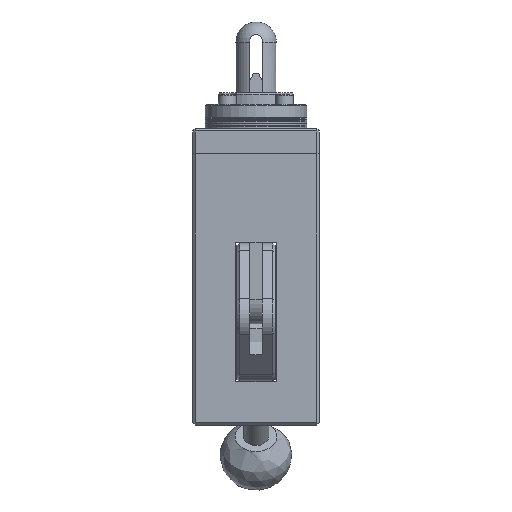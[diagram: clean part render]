
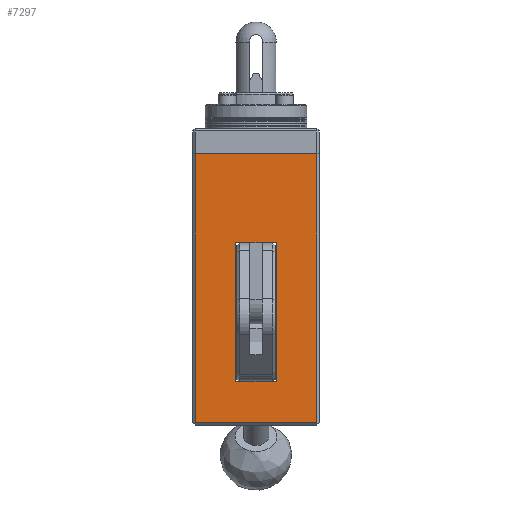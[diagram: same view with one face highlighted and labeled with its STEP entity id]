
A CAD part, left-side view. The second image highlights one B-rep face of the part: STEP entity #7297.
In plain terms, the highlighted planar face has unit normal (-1, 0, 0).
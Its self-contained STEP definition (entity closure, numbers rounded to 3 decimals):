
#244=FACE_BOUND('',#1182,.T.);
#452=PLANE('',#8041);
#730=FACE_OUTER_BOUND('',#1181,.T.);
#1181=EDGE_LOOP('',(#5523,#5524,#5525,#5526));
#1182=EDGE_LOOP('',(#5527,#5528,#5529,#5530));
#1593=LINE('',#11250,#2135);
#1600=LINE('',#11280,#2142);
#1626=LINE('',#11359,#2168);
#1629=LINE('',#11365,#2171);
#1671=LINE('',#11579,#2213);
#1679=LINE('',#11601,#2221);
#1691=LINE('',#11641,#2233);
#1692=LINE('',#11643,#2234);
#2135=VECTOR('',#8943,10.);
#2142=VECTOR('',#8972,10.);
#2168=VECTOR('',#9048,10.);
#2171=VECTOR('',#9053,10.);
#2213=VECTOR('',#9285,10.);
#2221=VECTOR('',#9307,10.);
#2233=VECTOR('',#9351,10.);
#2234=VECTOR('',#9354,10.);
#3162=VERTEX_POINT('',#11247);
#3163=VERTEX_POINT('',#11249);
#3174=VERTEX_POINT('',#11277);
#3175=VERTEX_POINT('',#11279);
#3203=VERTEX_POINT('',#11357);
#3205=VERTEX_POINT('',#11363);
#3282=VERTEX_POINT('',#11578);
#3289=VERTEX_POINT('',#11600);
#3955=EDGE_CURVE('',#3163,#3162,#1593,.T.);
#3969=EDGE_CURVE('',#3174,#3175,#1600,.T.);
#4006=EDGE_CURVE('',#3203,#3174,#1626,.T.);
#4009=EDGE_CURVE('',#3205,#3203,#1629,.T.);
#4112=EDGE_CURVE('',#3282,#3163,#1671,.T.);
#4122=EDGE_CURVE('',#3289,#3282,#1679,.T.);
#4140=EDGE_CURVE('',#3162,#3289,#1691,.T.);
#4141=EDGE_CURVE('',#3175,#3205,#1692,.T.);
#5523=ORIENTED_EDGE('',*,*,#4006,.F.);
#5524=ORIENTED_EDGE('',*,*,#4009,.F.);
#5525=ORIENTED_EDGE('',*,*,#4141,.F.);
#5526=ORIENTED_EDGE('',*,*,#3969,.F.);
#5527=ORIENTED_EDGE('',*,*,#4112,.T.);
#5528=ORIENTED_EDGE('',*,*,#3955,.T.);
#5529=ORIENTED_EDGE('',*,*,#4140,.T.);
#5530=ORIENTED_EDGE('',*,*,#4122,.T.);
#7297=ADVANCED_FACE('',(#730,#244),#452,.T.);
#8041=AXIS2_PLACEMENT_3D('',#11642,#9352,#9353);
#8943=DIRECTION('',(0.,0.,1.));
#8972=DIRECTION('',(0.,0.,1.));
#9048=DIRECTION('',(0.,1.,0.));
#9053=DIRECTION('',(0.,0.,-1.));
#9285=DIRECTION('',(0.,1.,0.));
#9307=DIRECTION('',(0.,0.,-1.));
#9351=DIRECTION('',(0.,-1.,0.));
#9352=DIRECTION('center_axis',(-1.,0.,0.));
#9353=DIRECTION('ref_axis',(0.,-1.,0.));
#9354=DIRECTION('',(0.,-1.,0.));
#11247=CARTESIAN_POINT('',(-36.509,7.434,18.5));
#11249=CARTESIAN_POINT('',(-36.509,7.434,-36.5));
#11250=CARTESIAN_POINT('',(-36.509,7.434,-45.));
#11277=CARTESIAN_POINT('',(-36.509,23.434,-52.5));
#11279=CARTESIAN_POINT('',(-36.509,23.434,53.5));
#11280=CARTESIAN_POINT('',(-36.509,23.434,-53.5));
#11357=CARTESIAN_POINT('',(-36.509,-24.566,-52.5));
#11359=CARTESIAN_POINT('',(-36.509,-6.816,-52.5));
#11363=CARTESIAN_POINT('',(-36.509,-24.566,53.5));
#11365=CARTESIAN_POINT('',(-36.509,-24.566,-53.5));
#11578=CARTESIAN_POINT('',(-36.509,-8.566,-36.5));
#11579=CARTESIAN_POINT('',(-36.509,-0.566,-36.5));
#11600=CARTESIAN_POINT('',(-36.509,-8.566,18.5));
#11601=CARTESIAN_POINT('',(-36.509,-8.566,-45.));
#11641=CARTESIAN_POINT('',(-36.509,-4.566,18.5));
#11642=CARTESIAN_POINT('Origin',(-36.509,-0.566,-53.5));
#11643=CARTESIAN_POINT('',(-36.509,-0.566,53.5));
